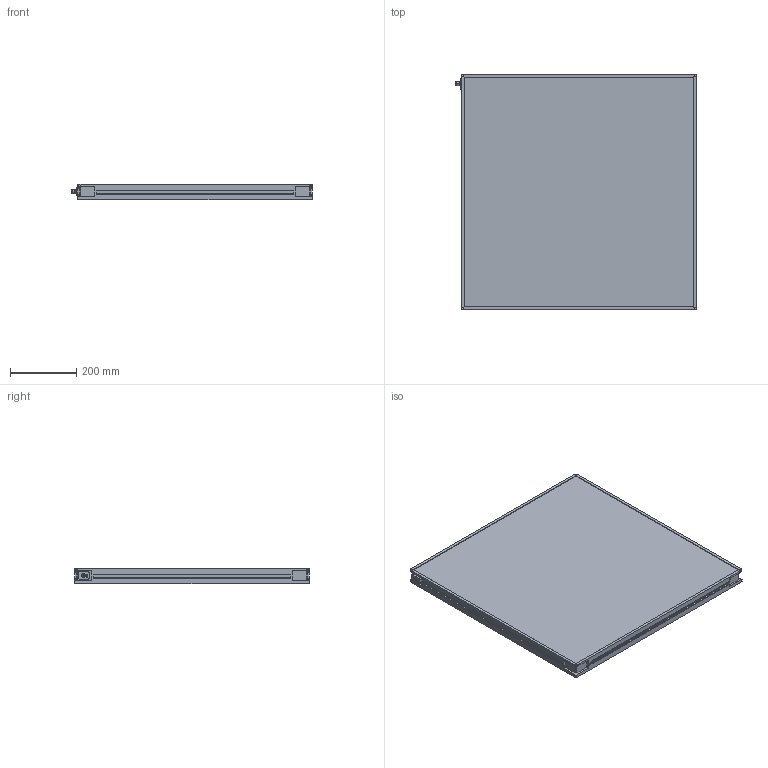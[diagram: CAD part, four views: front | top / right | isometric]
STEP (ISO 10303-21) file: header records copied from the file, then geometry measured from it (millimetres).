
FILE_DESCRIPTION (( 'STEP AP214' ), '1' );
FILE_NAME ('MBACK-xxxx-xxx-M1_CLIENT700x700.STEP', '2022-03-31T16:32:59', ( '' ), ( '' ), 'SwSTEP 2.0', 'SolidWorks 2020', '' );
FILE_SCHEMA (( 'AUTOMOTIVE_DESIGN' ));
Length unit declared in the file: millimetre
Products named in the file (1): MBACK-xxxx-xxx-M1_CLIENT700x700
Bounding box: 725.9 x 708 x 45.5 mm (x, y, z)
Volume: 20852119.6 mm3; surface area: 1190503.6 mm2
Topology: 1 solids, 1 shells, 442 faces, 1144 edges, 760 vertices
Faces by surface type: plane 249, cylinder 105, bspline 80, cone 8
Entity records: 17236 total; most frequent: CARTESIAN_POINT 6699, ORIENTED_EDGE 2288, DIRECTION 1936, EDGE_CURVE 1144, VERTEX_POINT 760, VECTOR 758, LINE 758, AXIS2_PLACEMENT_3D 589
